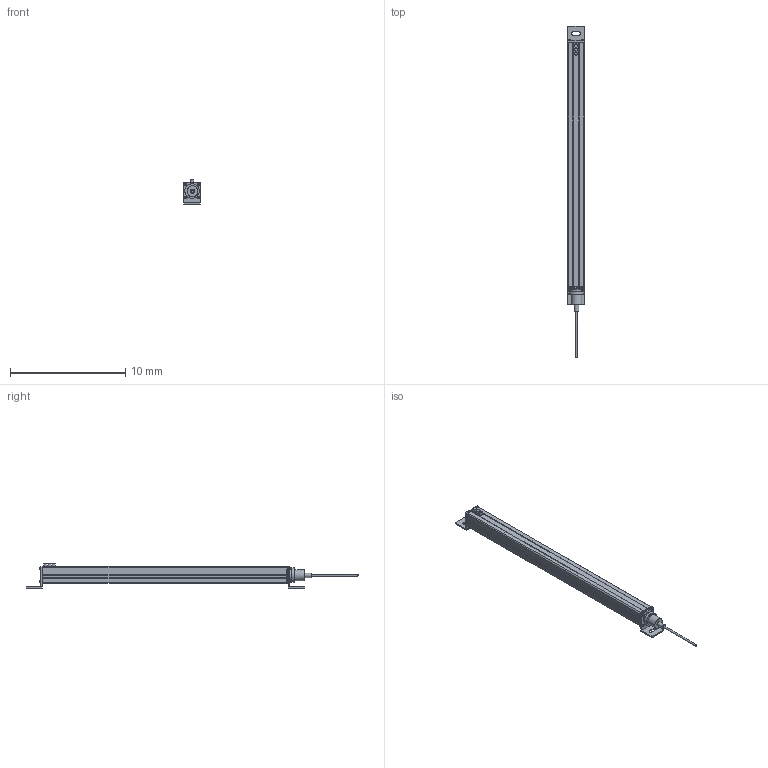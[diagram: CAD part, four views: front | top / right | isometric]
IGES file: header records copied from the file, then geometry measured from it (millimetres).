
Start section:  Autodesk DirectConnect version 7.0.27.0 ---- IGES version 5.3
Global section: file name: C:\ACADFILES\MG_PYLONS\CUSTOMER_FILES\MG-20-PYLON_3D_L.iges; native system: Autodesk DirectConnect 7.0.27.0; preprocessor: 7.0.27.0; author: ENGINEERMAIN; organization: Unknown; date: 20150810.133154; units: millimetre
Bounding box: 1.46 x 28.85 x 2.11 mm (x, y, z)
Surface area: 347.8 mm2 (no closed solid volume)
Topology: 0 solids, 0 shells, 630 faces, 3369 edges, 3383 vertices
Faces by surface type: bspline 630
